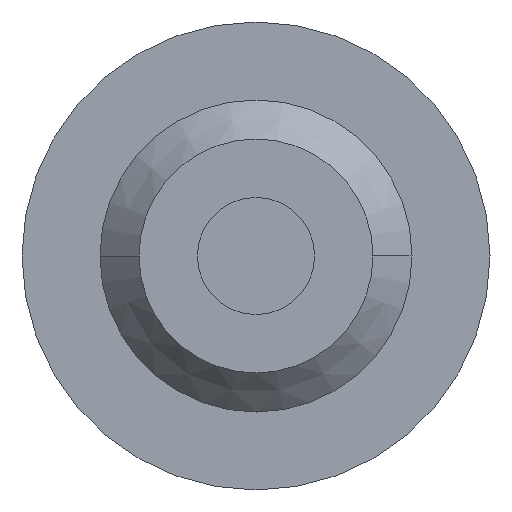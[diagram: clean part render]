
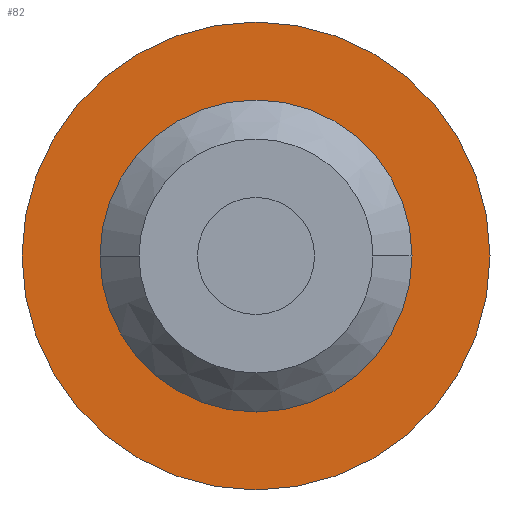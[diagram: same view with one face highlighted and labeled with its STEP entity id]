
A CAD part, left-side view. The second image highlights one B-rep face of the part: STEP entity #82.
In plain terms, the highlighted planar face has unit normal (-1, 0, 0).
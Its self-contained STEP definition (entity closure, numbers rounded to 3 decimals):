
#2 = EDGE_LOOP ( 'NONE', ( #172, #654 ) ) ;
#23 = CARTESIAN_POINT ( 'NONE',  ( -4.05, 6., 0. ) ) ;
#41 = ORIENTED_EDGE ( 'NONE', *, *, #681, .T. ) ;
#45 = DIRECTION ( 'NONE',  ( 1., 0., 0. ) ) ;
#81 = CARTESIAN_POINT ( 'NONE',  ( -4.05, 0., 0. ) ) ;
#82 = ADVANCED_FACE ( 'NONE', ( #570, #157 ), #315, .T. ) ;
#93 = CARTESIAN_POINT ( 'NONE',  ( -4.05, 4., 0. ) ) ;
#118 = CARTESIAN_POINT ( 'NONE',  ( -4.05, -4., 0. ) ) ;
#139 = DIRECTION ( 'NONE',  ( 0., 1., 0. ) ) ;
#144 = CARTESIAN_POINT ( 'NONE',  ( -4.05, 0., 0. ) ) ;
#156 = ORIENTED_EDGE ( 'NONE', *, *, #209, .T. ) ;
#157 = FACE_OUTER_BOUND ( 'NONE', #2, .T. ) ;
#159 = EDGE_CURVE ( 'NONE', #677, #382, #207, .T. ) ;
#172 = ORIENTED_EDGE ( 'NONE', *, *, #159, .F. ) ;
#174 = EDGE_LOOP ( 'NONE', ( #41, #156 ) ) ;
#185 = DIRECTION ( 'NONE',  ( 1., 0., 0. ) ) ;
#187 = DIRECTION ( 'NONE',  ( 0., 1., 0. ) ) ;
#207 = CIRCLE ( 'NONE', #230, 6. ) ;
#209 = EDGE_CURVE ( 'NONE', #310, #333, #579, .T. ) ;
#210 = CARTESIAN_POINT ( 'NONE',  ( -4.05, 0., 0. ) ) ;
#230 = AXIS2_PLACEMENT_3D ( 'NONE', #144, #45, #432 ) ;
#310 = VERTEX_POINT ( 'NONE', #118 ) ;
#315 = PLANE ( 'NONE',  #375 ) ;
#333 = VERTEX_POINT ( 'NONE', #613 ) ;
#371 = CIRCLE ( 'NONE', #698, 4. ) ;
#375 = AXIS2_PLACEMENT_3D ( 'NONE', #93, #701, #590 ) ;
#382 = VERTEX_POINT ( 'NONE', #560 ) ;
#432 = DIRECTION ( 'NONE',  ( 0., 1., 0. ) ) ;
#442 = DIRECTION ( 'NONE',  ( 0., 1., 0. ) ) ;
#496 = CIRCLE ( 'NONE', #659, 6. ) ;
#503 = AXIS2_PLACEMENT_3D ( 'NONE', #210, #608, #442 ) ;
#534 = DIRECTION ( 'NONE',  ( 1., 0., 0. ) ) ;
#539 = CARTESIAN_POINT ( 'NONE',  ( -4.05, 0., 0. ) ) ;
#560 = CARTESIAN_POINT ( 'NONE',  ( -4.05, -6., 0. ) ) ;
#570 = FACE_BOUND ( 'NONE', #174, .T. ) ;
#579 = CIRCLE ( 'NONE', #503, 4. ) ;
#590 = DIRECTION ( 'NONE',  ( 0., -1., 0. ) ) ;
#608 = DIRECTION ( 'NONE',  ( 1., 0., 0. ) ) ;
#613 = CARTESIAN_POINT ( 'NONE',  ( -4.05, 4., 0. ) ) ;
#654 = ORIENTED_EDGE ( 'NONE', *, *, #666, .F. ) ;
#659 = AXIS2_PLACEMENT_3D ( 'NONE', #81, #534, #187 ) ;
#666 = EDGE_CURVE ( 'NONE', #382, #677, #496, .T. ) ;
#677 = VERTEX_POINT ( 'NONE', #23 ) ;
#681 = EDGE_CURVE ( 'NONE', #333, #310, #371, .T. ) ;
#698 = AXIS2_PLACEMENT_3D ( 'NONE', #539, #185, #139 ) ;
#701 = DIRECTION ( 'NONE',  ( -1., 0., 0. ) ) ;
